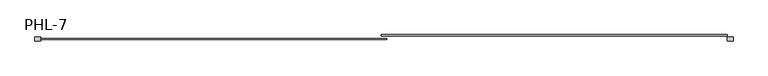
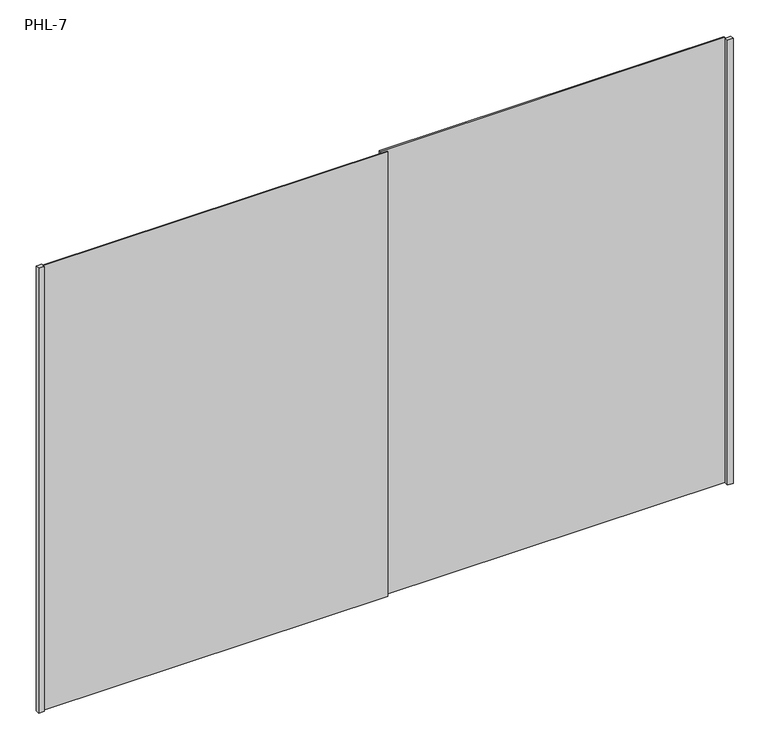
"""IFC4 building model written with IfcOpenShell, lengths in millimetres: furniture geometry, Puerta Closet corre 2 hojas : PHL-7."""

from ifc_helpers import new_model, si_unit, origin, origin_with_axes, place, context, project, spatial, polyline, outline, extrude, source, transform, mapped, element, save


def phl_7_e46b9a9d(model_context):
    return source(origin(), model_context, "Body", "SweptSolid", [
        extrude(outline(polyline([(1320.0, 80.0), (1290.0, 80.0), (1290.0, 100.0), (1320.0, 100.0), (1320.0, 80.0)])), origin_with_axes(), (0.0, 0.0, 1.0), 2520.0),
        extrude(outline(polyline([(1290.0, 106.6666667), (-555.0, 106.6666667), (-555.0, 113.3333333), (1290.0, 113.3333333), (1290.0, 106.6666667)])), origin_with_axes(), (0.0, 0.0, 1.0), 2520.0),
        extrude(outline(polyline([(-525.0, 86.6666667), (-2370.0, 86.6666667), (-2370.0, 93.3333333), (-525.0, 93.3333333), (-525.0, 86.6666667)])), origin_with_axes(), (0.0, 0.0, 1.0), 2520.0),
        extrude(outline(polyline([(-2400.0, 80.0), (-2400.0, 100.0), (-2370.0, 100.0), (-2370.0, 80.0), (-2400.0, 80.0)])), origin_with_axes(), (0.0, 0.0, 1.0), 2520.0),
    ])


if __name__ == "__main__":
    model = new_model("IFC4")
    model_context = context("Model", 3, world=origin())
    ifc_project = project(units=[si_unit("LENGTHUNIT", "METRE", prefix="MILLI")], contexts=[model_context])
    site = spatial("IfcSite", under=ifc_project)
    building = spatial("IfcBuilding", under=site)
    placement = place(None, origin())
    phl_7_shape = phl_7_e46b9a9d(model_context)
    element("IfcFurniture", 1, ObjectType="Puerta Closet corre 2 hojas : PHL-7", at=placement, inside=building, context=model_context, shape_type="MappedRepresentation", body=[
        mapped(phl_7_shape, transform((0.0, 0.0, 0.0), x_axis=(1.0, 0.0, 0.0), y_axis=(0.0, 1.0, 0.0), z_axis=(0.0, 0.0, 1.0))),
    ])
    save(model, "model.ifc")
